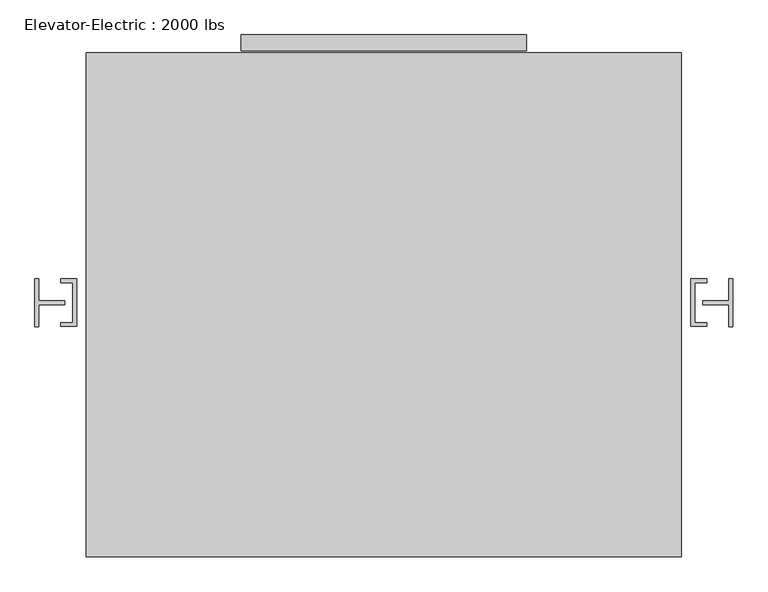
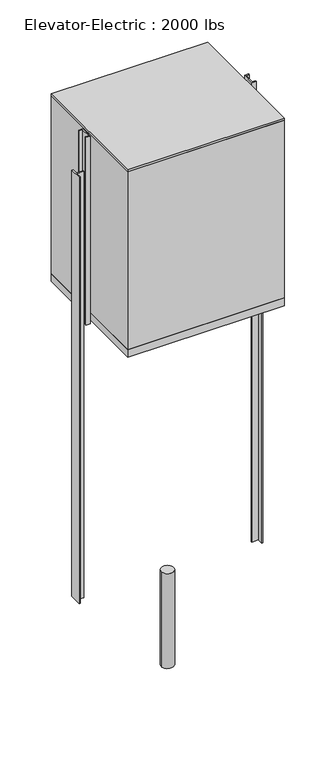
"""IFC4 building model written with IfcOpenShell, lengths in millimetres: proxy geometry, Elevator-Electric : 2000 lbs."""

from ifc_helpers import new_model, si_unit, point, frame, frame_2d, origin, origin_with_axes, place, context, project, spatial, polyline, circle_curve, trimmed, segment, composite_curve, outline, extrude, faceted_brep, source, transform, mapped, element, save


def elevator_electric_2000_lbs_4744baa0(model_context):
    return source(origin(), model_context, "Body", "SolidModel", [
        extrude(outline(polyline([(464.6469965, 854.4281737), (-449.7530035, 854.4281737), (-449.7530035, 905.2281737), (464.6469965, 905.2281737), (464.6469965, 854.4281737)])), frame((0.0, 0.0, 3657.6), z_axis=(0.0, 0.0, 1.0), x_axis=(1.0, 0.0, 0.0)), (0.0, 0.0, 1.0), 2032.0),
        extrude(outline(polyline([(959.9469965, -764.8218263), (-945.0530035, -764.8218263), (-945.0530035, 848.0781737), (959.9469965, 848.0781737), (959.9469965, -764.8218263)])), frame((0.0, 0.0, 5943.6), z_axis=(0.0, 0.0, 1.0), x_axis=(1.0, 0.0, 0.0)), (0.0, 0.0, 1.0), 25.4),
        extrude(outline(composite_curve([segment(trimmed(circle_curve(frame_2d((7.4469965, 47.9781737)), 76.2), [point((-68.7530035, 47.9781737))], [point((83.6469965, 47.9781737))], False, "CARTESIAN"), True, "CONTINUOUS"), segment(trimmed(circle_curve(frame_2d((7.4469965, 47.9781737)), 76.2), [point((83.6469965, 47.9781737))], [point((-68.7530035, 47.9781737))], False, "CARTESIAN"), True, "CONTINUOUS")], self_intersect=False)), frame((0.0, 0.0, -1219.2), z_axis=(0.0, 0.0, 1.0), x_axis=(1.0, 0.0, 0.0)), (0.0, 0.0, 1.0), 1219.2),
        faceted_brep([(959.9469965, -764.8218263, 5943.6), (959.9469965, 848.0781737, 5943.6), (-945.0530035, 848.0781737, 5943.6), (-945.0530035, -764.8218263, 5943.6), (921.8469965, -714.0218263, 5943.6), (-906.9530035, -714.0218263, 5943.6), (-906.9530035, 809.9781737, 5943.6), (921.8469965, 809.9781737, 5943.6), (921.8469965, -714.0218263, 3657.6), (921.8469965, 809.9781737, 3657.6), (464.6469965, 809.9781737, 3657.6), (464.6469965, 848.0781737, 3657.6), (959.9469965, 848.0781737, 3657.6), (959.9469965, -764.8218263, 3657.6), (-945.0530035, -764.8218263, 3657.6), (-945.0530035, 848.0781737, 3657.6), (-449.7530035, 848.0781737, 3657.6), (-449.7530035, 809.9781737, 3657.6), (-906.9530035, 809.9781737, 3657.6), (-906.9530035, -714.0218263, 3657.6), (-449.7530035, 809.9781737, 5689.6), (464.6469965, 809.9781737, 5689.6), (464.6469965, 848.0781737, 5689.6), (-449.7530035, 848.0781737, 5689.6)], [[[0, 1, 2, 3], [4, 5, 6, 7]], [[8, 9, 10, 11, 12, 13, 14, 15, 16, 17, 18, 19]], [[7, 9, 8, 4]], [[6, 18, 17, 20, 21, 10, 9, 7]], [[5, 19, 18, 6]], [[4, 8, 19, 5]], [[3, 14, 13, 0]], [[2, 15, 14, 3]], [[1, 12, 11, 22, 23, 16, 15, 2]], [[0, 13, 12, 1]], [[23, 22, 21, 20]], [[20, 17, 16, 23]], [[22, 11, 10, 21]]]),
        extrude(outline(polyline([(959.9469965, -764.8218263), (-945.0530035, -764.8218263), (-945.0530035, 848.0781737), (959.9469965, 848.0781737), (959.9469965, -764.8218263)])), frame((0.0, 0.0, 3556.0), z_axis=(0.0, 0.0, 1.0), x_axis=(1.0, 0.0, 0.0)), (0.0, 0.0, 1.0), 101.6),
        extrude(outline(polyline([(-976.8030035, -28.2218263), (-1027.6030035, -28.2218263), (-1027.6030035, -15.5218263), (-989.5030035, -15.5218263), (-989.5030035, 111.4781737), (-1027.6030035, 111.4781737), (-1027.6030035, 124.1781737), (-976.8030035, 124.1781737), (-976.8030035, -28.2218263)])), frame((0.0, 0.0, 3556.0), z_axis=(0.0, 0.0, 1.0), x_axis=(1.0, 0.0, 0.0)), (0.0, 0.0, 1.0), 2413.0),
        extrude(outline(polyline([(991.6969965, -28.2218263), (991.6969965, 124.1781737), (1042.4969965, 124.1781737), (1042.4969965, 111.4781737), (1004.3969965, 111.4781737), (1004.3969965, -15.5218263), (1042.4969965, -15.5218263), (1042.4969965, -28.2218263), (991.6969965, -28.2218263)])), frame((0.0, 0.0, 3556.0), z_axis=(0.0, 0.0, 1.0), x_axis=(1.0, 0.0, 0.0)), (0.0, 0.0, 1.0), 2413.0),
        extrude(outline(polyline([(-1097.4530035, -28.2218263), (-1110.1530035, -28.2218263), (-1110.1530035, 124.1781737), (-1097.4530035, 124.1781737), (-1097.4530035, 54.3281737), (-1014.9030035, 54.3281737), (-1014.9030035, 41.6281737), (-1097.4530035, 41.6281737), (-1097.4530035, -28.2218263)])), origin_with_axes(), (0.0, 0.0, 1.0), 5486.4),
        extrude(outline(polyline([(1112.3469965, -28.2218263), (1112.3469965, 41.6281737), (1029.7969965, 41.6281737), (1029.7969965, 54.3281737), (1112.3469965, 54.3281737), (1112.3469965, 124.1781737), (1125.0469965, 124.1781737), (1125.0469965, -28.2218263), (1112.3469965, -28.2218263)])), origin_with_axes(), (0.0, 0.0, 1.0), 5486.4),
    ])


if __name__ == "__main__":
    model = new_model("IFC4")
    model_context = context("Model", 3, world=origin())
    ifc_project = project(units=[si_unit("LENGTHUNIT", "METRE", prefix="MILLI")], contexts=[model_context])
    site = spatial("IfcSite", under=ifc_project)
    building = spatial("IfcBuilding", under=site)
    placement = place(None, origin())
    elevator_electric_2000_lbs_shape = elevator_electric_2000_lbs_4744baa0(model_context)
    element("IfcBuildingElementProxy", 1, Name="Elevator-Electric : 2000 lbs", ObjectType="Elevator-Electric : 2000 lbs", at=placement, inside=building, context=model_context, shape_type="MappedRepresentation", body=[
        mapped(elevator_electric_2000_lbs_shape, transform((0.0, 0.0, 0.0), x_axis=(1.0, 0.0, 0.0), y_axis=(0.0, 1.0, 0.0), z_axis=(0.0, 0.0, 1.0))),
    ])
    save(model, "model.ifc")
